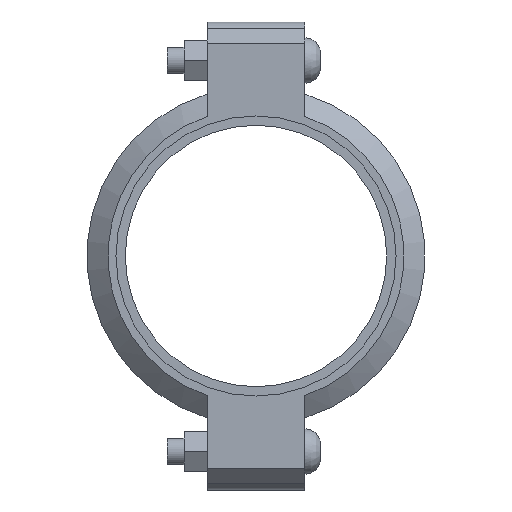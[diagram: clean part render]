
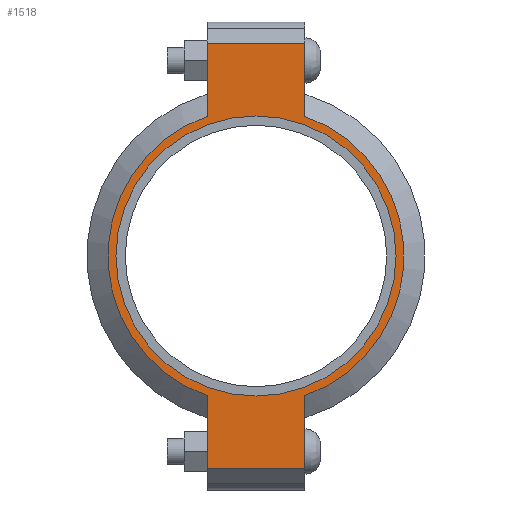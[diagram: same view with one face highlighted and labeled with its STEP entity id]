
A CAD part, left-side view. The second image highlights one B-rep face of the part: STEP entity #1518.
In plain terms, the highlighted planar face has unit normal (-1, 0, 0) as drawn and (0, 0, 1) by its records, which use the part's own axes.
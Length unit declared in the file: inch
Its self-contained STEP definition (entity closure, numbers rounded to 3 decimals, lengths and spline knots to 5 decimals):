
#142=LINE('',#2658,#235);
#150=LINE('',#2694,#243);
#157=LINE('',#2715,#250);
#166=LINE('',#2747,#259);
#167=LINE('',#2751,#260);
#168=LINE('',#2753,#261);
#235=VECTOR('',#2174,0.3937);
#243=VECTOR('',#2190,0.3937);
#250=VECTOR('',#2209,0.3937);
#259=VECTOR('',#2234,0.3937);
#260=VECTOR('',#2239,0.3937);
#261=VECTOR('',#2240,0.3937);
#317=FACE_BOUND('',#495,.T.);
#389=FACE_OUTER_BOUND('',#494,.T.);
#494=EDGE_LOOP('',(#1259,#1260,#1261,#1262,#1263,#1264,#1265,#1266));
#495=EDGE_LOOP('',(#1267));
#567=CIRCLE('',#1746,3.3125);
#593=CIRCLE('',#1805,3.5);
#594=CIRCLE('',#1806,3.5);
#659=VERTEX_POINT('',#2474);
#702=VERTEX_POINT('',#2655);
#703=VERTEX_POINT('',#2657);
#714=VERTEX_POINT('',#2689);
#715=VERTEX_POINT('',#2693);
#722=VERTEX_POINT('',#2712);
#723=VERTEX_POINT('',#2714);
#733=VERTEX_POINT('',#2750);
#734=VERTEX_POINT('',#2752);
#815=EDGE_CURVE('',#659,#659,#567,.T.);
#876=EDGE_CURVE('',#703,#702,#142,.T.);
#890=EDGE_CURVE('',#715,#714,#150,.T.);
#900=EDGE_CURVE('',#723,#722,#157,.T.);
#915=EDGE_CURVE('',#715,#702,#166,.T.);
#916=EDGE_CURVE('',#714,#723,#593,.T.);
#917=EDGE_CURVE('',#733,#722,#167,.T.);
#918=EDGE_CURVE('',#733,#734,#168,.T.);
#919=EDGE_CURVE('',#734,#703,#594,.T.);
#1259=ORIENTED_EDGE('',*,*,#915,.F.);
#1260=ORIENTED_EDGE('',*,*,#890,.T.);
#1261=ORIENTED_EDGE('',*,*,#916,.T.);
#1262=ORIENTED_EDGE('',*,*,#900,.T.);
#1263=ORIENTED_EDGE('',*,*,#917,.F.);
#1264=ORIENTED_EDGE('',*,*,#918,.T.);
#1265=ORIENTED_EDGE('',*,*,#919,.T.);
#1266=ORIENTED_EDGE('',*,*,#876,.T.);
#1267=ORIENTED_EDGE('',*,*,#815,.T.);
#1360=PLANE('',#1804);
#1518=ADVANCED_FACE('',(#389,#317),#1360,.T.);
#1746=AXIS2_PLACEMENT_3D('',#2476,#2050,#2051);
#1804=AXIS2_PLACEMENT_3D('',#2748,#2235,#2236);
#1805=AXIS2_PLACEMENT_3D('',#2749,#2237,#2238);
#1806=AXIS2_PLACEMENT_3D('',#2754,#2241,#2242);
#2050=DIRECTION('center_axis',(0.,0.,-1.));
#2051=DIRECTION('ref_axis',(1.,0.,0.));
#2174=DIRECTION('',(1.,0.,0.));
#2190=DIRECTION('',(-1.,0.,0.));
#2209=DIRECTION('',(-1.,0.,0.));
#2234=DIRECTION('',(0.,-1.,0.));
#2235=DIRECTION('center_axis',(0.,0.,1.));
#2236=DIRECTION('ref_axis',(-1.,0.,0.));
#2237=DIRECTION('center_axis',(0.,0.,1.));
#2238=DIRECTION('ref_axis',(1.,0.,0.));
#2239=DIRECTION('',(0.,1.,0.));
#2240=DIRECTION('',(1.,0.,0.));
#2241=DIRECTION('center_axis',(0.,0.,1.));
#2242=DIRECTION('ref_axis',(1.,0.,0.));
#2474=CARTESIAN_POINT('',(-3.3125,0.,1.065));
#2476=CARTESIAN_POINT('Origin',(0.,0.,1.065));
#2655=CARTESIAN_POINT('',(5.035,-1.156,1.065));
#2657=CARTESIAN_POINT('',(3.30358,-1.156,1.065));
#2658=CARTESIAN_POINT('',(5.535,-1.156,1.065));
#2689=CARTESIAN_POINT('',(3.30358,1.156,1.065));
#2693=CARTESIAN_POINT('',(5.035,1.156,1.065));
#2694=CARTESIAN_POINT('',(-5.535,1.156,1.065));
#2712=CARTESIAN_POINT('',(-5.035,1.156,1.065));
#2714=CARTESIAN_POINT('',(-3.30358,1.156,1.065));
#2715=CARTESIAN_POINT('',(-5.535,1.156,1.065));
#2747=CARTESIAN_POINT('',(5.035,-0.578,1.065));
#2748=CARTESIAN_POINT('Origin',(0.,0.,
1.065));
#2749=CARTESIAN_POINT('Origin',(0.,0.,1.065));
#2750=CARTESIAN_POINT('',(-5.035,-1.156,1.065));
#2751=CARTESIAN_POINT('',(-5.035,0.578,1.065));
#2752=CARTESIAN_POINT('',(-3.30358,-1.156,1.065));
#2753=CARTESIAN_POINT('',(5.535,-1.156,1.065));
#2754=CARTESIAN_POINT('Origin',(0.,0.,1.065));
